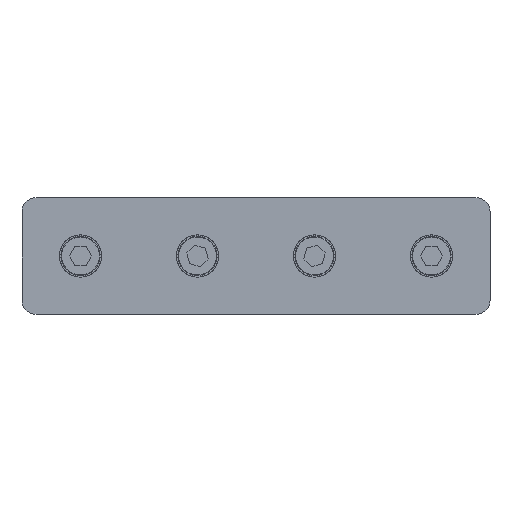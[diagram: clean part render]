
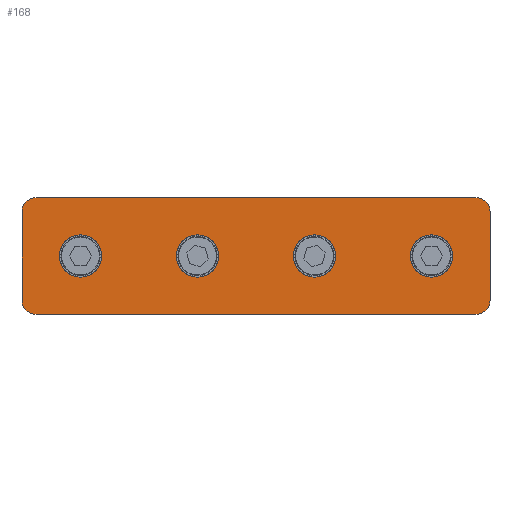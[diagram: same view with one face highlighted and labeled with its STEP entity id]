
A CAD part, top view. The second image highlights one B-rep face of the part: STEP entity #168.
In plain terms, the highlighted planar face has unit normal (0, 0, 1).
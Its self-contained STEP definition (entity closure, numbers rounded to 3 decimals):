
#20 = CARTESIAN_POINT ( 'NONE',  ( -183.807, 4.191, 89.049 ) ) ;
#52 = CARTESIAN_POINT ( 'NONE',  ( -158.807, 4.191, 89.049 ) ) ;
#56 = AXIS2_PLACEMENT_3D ( 'NONE', #52, #7964, #6671 ) ;
#57 = EDGE_CURVE ( 'NONE', #2915, #2399, #4601, .T. ) ;
#117 = VERTEX_POINT ( 'NONE', #2739 ) ;
#135 = CARTESIAN_POINT ( 'NONE',  ( -186.457, 4.191, 89.049 ) ) ;
#168 = ADVANCED_FACE ( 'NONE', ( #759, #5778, #1714, #3753, #5562 ), #1462, .T. ) ;
#228 = EDGE_CURVE ( 'NONE', #6391, #2781, #3121, .T. ) ;
#259 = VECTOR ( 'NONE', #2725, 1000. ) ;
#261 = CARTESIAN_POINT ( 'NONE',  ( -136.457, 4.191, 89.049 ) ) ;
#347 = DIRECTION ( 'NONE',  ( 1., 0., 0. ) ) ;
#353 = DIRECTION ( 'NONE',  ( 0., 0., 1. ) ) ;
#417 = CIRCLE ( 'NONE', #2021, 2.65 ) ;
#493 = CARTESIAN_POINT ( 'NONE',  ( -161.457, 4.191, 89.049 ) ) ;
#558 = EDGE_LOOP ( 'NONE', ( #4623, #1900 ) ) ;
#566 = CARTESIAN_POINT ( 'NONE',  ( -221.307, -5.309, 89.049 ) ) ;
#619 = CARTESIAN_POINT ( 'NONE',  ( -218.307, -8.309, 89.049 ) ) ;
#717 = DIRECTION ( 'NONE',  ( -1., 0., 0. ) ) ;
#759 = FACE_BOUND ( 'NONE', #8793, .T. ) ;
#871 = EDGE_CURVE ( 'NONE', #874, #5942, #5661, .T. ) ;
#874 = VERTEX_POINT ( 'NONE', #4853 ) ;
#901 = LINE ( 'NONE', #6182, #8173 ) ;
#1087 = AXIS2_PLACEMENT_3D ( 'NONE', #8538, #4440, #347 ) ;
#1204 = EDGE_CURVE ( 'NONE', #7070, #2706, #6849, .T. ) ;
#1261 = ORIENTED_EDGE ( 'NONE', *, *, #6812, .T. ) ;
#1331 = EDGE_CURVE ( 'NONE', #8437, #1561, #5769, .T. ) ;
#1370 = ORIENTED_EDGE ( 'NONE', *, *, #1331, .T. ) ;
#1381 = CARTESIAN_POINT ( 'NONE',  ( -158.807, 4.191, 89.049 ) ) ;
#1462 = PLANE ( 'NONE',  #4499 ) ;
#1496 = CARTESIAN_POINT ( 'NONE',  ( -218.307, -5.309, 89.049 ) ) ;
#1561 = VERTEX_POINT ( 'NONE', #8558 ) ;
#1608 = ORIENTED_EDGE ( 'NONE', *, *, #8847, .T. ) ;
#1635 = ORIENTED_EDGE ( 'NONE', *, *, #228, .T. ) ;
#1714 = FACE_BOUND ( 'NONE', #4508, .T. ) ;
#1900 = ORIENTED_EDGE ( 'NONE', *, *, #4706, .F. ) ;
#1999 = AXIS2_PLACEMENT_3D ( 'NONE', #3117, #7879, #3791 ) ;
#2021 = AXIS2_PLACEMENT_3D ( 'NONE', #20, #4813, #717 ) ;
#2063 = DIRECTION ( 'NONE',  ( -1., 0., 0. ) ) ;
#2094 = CARTESIAN_POINT ( 'NONE',  ( -208.807, 4.191, 89.049 ) ) ;
#2111 = CARTESIAN_POINT ( 'NONE',  ( -121.307, 13.691, 89.049 ) ) ;
#2304 = CARTESIAN_POINT ( 'NONE',  ( -221.307, 13.691, 89.049 ) ) ;
#2340 = LINE ( 'NONE', #2790, #5539 ) ;
#2399 = VERTEX_POINT ( 'NONE', #135 ) ;
#2536 = DIRECTION ( 'NONE',  ( 0., 0., 1. ) ) ;
#2645 = DIRECTION ( 'NONE',  ( 0., 1., 0. ) ) ;
#2706 = VERTEX_POINT ( 'NONE', #261 ) ;
#2725 = DIRECTION ( 'NONE',  ( 1., 0., 0. ) ) ;
#2739 = CARTESIAN_POINT ( 'NONE',  ( -211.457, 4.191, 89.049 ) ) ;
#2757 = CARTESIAN_POINT ( 'NONE',  ( -218.307, -8.309, 89.049 ) ) ;
#2764 = VERTEX_POINT ( 'NONE', #3986 ) ;
#2777 = EDGE_CURVE ( 'NONE', #1561, #5576, #2340, .T. ) ;
#2781 = VERTEX_POINT ( 'NONE', #2757 ) ;
#2788 = DIRECTION ( 'NONE',  ( -1., 0., 0. ) ) ;
#2790 = CARTESIAN_POINT ( 'NONE',  ( -121.307, -5.309, 89.049 ) ) ;
#2915 = VERTEX_POINT ( 'NONE', #6694 ) ;
#2954 = AXIS2_PLACEMENT_3D ( 'NONE', #2094, #6881, #2788 ) ;
#3005 = CARTESIAN_POINT ( 'NONE',  ( -133.807, 4.191, 89.049 ) ) ;
#3117 = CARTESIAN_POINT ( 'NONE',  ( -133.807, 4.191, 89.049 ) ) ;
#3121 = CIRCLE ( 'NONE', #5864, 3. ) ;
#3123 = AXIS2_PLACEMENT_3D ( 'NONE', #3005, #3657, #3684 ) ;
#3189 = CARTESIAN_POINT ( 'NONE',  ( -218.307, 13.691, 89.049 ) ) ;
#3284 = AXIS2_PLACEMENT_3D ( 'NONE', #1381, #6147, #2063 ) ;
#3378 = VECTOR ( 'NONE', #4311, 1000. ) ;
#3384 = CIRCLE ( 'NONE', #1999, 2.65 ) ;
#3401 = EDGE_LOOP ( 'NONE', ( #7145, #4725 ) ) ;
#3466 = VERTEX_POINT ( 'NONE', #6380 ) ;
#3561 = VERTEX_POINT ( 'NONE', #2304 ) ;
#3657 = DIRECTION ( 'NONE',  ( 0., 0., 1. ) ) ;
#3665 = ORIENTED_EDGE ( 'NONE', *, *, #57, .F. ) ;
#3684 = DIRECTION ( 'NONE',  ( -1., 0., 0. ) ) ;
#3753 = FACE_BOUND ( 'NONE', #3401, .T. ) ;
#3791 = DIRECTION ( 'NONE',  ( -1., 0., 0. ) ) ;
#3827 = ORIENTED_EDGE ( 'NONE', *, *, #6824, .F. ) ;
#3872 = DIRECTION ( 'NONE',  ( 1., 0., 0. ) ) ;
#3986 = CARTESIAN_POINT ( 'NONE',  ( -124.307, 16.691, 89.049 ) ) ;
#4115 = CARTESIAN_POINT ( 'NONE',  ( -206.157, 4.191, 89.049 ) ) ;
#4122 = DIRECTION ( 'NONE',  ( -1., 0., 0. ) ) ;
#4311 = DIRECTION ( 'NONE',  ( 0., -1., 0. ) ) ;
#4344 = CARTESIAN_POINT ( 'NONE',  ( -124.307, -5.309, 89.049 ) ) ;
#4440 = DIRECTION ( 'NONE',  ( 0., 0., 1. ) ) ;
#4447 = CARTESIAN_POINT ( 'NONE',  ( -208.807, 4.191, 89.049 ) ) ;
#4477 = ORIENTED_EDGE ( 'NONE', *, *, #7477, .T. ) ;
#4499 = AXIS2_PLACEMENT_3D ( 'NONE', #7532, #7371, #5600 ) ;
#4508 = EDGE_LOOP ( 'NONE', ( #3665, #6875 ) ) ;
#4601 = CIRCLE ( 'NONE', #7875, 2.65 ) ;
#4623 = ORIENTED_EDGE ( 'NONE', *, *, #871, .F. ) ;
#4706 = EDGE_CURVE ( 'NONE', #5942, #874, #6800, .T. ) ;
#4725 = ORIENTED_EDGE ( 'NONE', *, *, #5049, .F. ) ;
#4756 = VERTEX_POINT ( 'NONE', #4115 ) ;
#4813 = DIRECTION ( 'NONE',  ( 0., 0., 1. ) ) ;
#4853 = CARTESIAN_POINT ( 'NONE',  ( -156.157, 4.191, 89.049 ) ) ;
#4950 = AXIS2_PLACEMENT_3D ( 'NONE', #4344, #5579, #5833 ) ;
#5005 = CIRCLE ( 'NONE', #1087, 3. ) ;
#5037 = EDGE_CURVE ( 'NONE', #2399, #2915, #417, .T. ) ;
#5049 = EDGE_CURVE ( 'NONE', #117, #4756, #7462, .T. ) ;
#5145 = DIRECTION ( 'NONE',  ( -1., 0., 0. ) ) ;
#5203 = ORIENTED_EDGE ( 'NONE', *, *, #7291, .T. ) ;
#5414 = LINE ( 'NONE', #7040, #3378 ) ;
#5539 = VECTOR ( 'NONE', #2645, 1000. ) ;
#5562 = FACE_OUTER_BOUND ( 'NONE', #6534, .T. ) ;
#5576 = VERTEX_POINT ( 'NONE', #2111 ) ;
#5579 = DIRECTION ( 'NONE',  ( 0., 0., 1. ) ) ;
#5600 = DIRECTION ( 'NONE',  ( 1., 0., 0. ) ) ;
#5661 = CIRCLE ( 'NONE', #56, 2.65 ) ;
#5769 = CIRCLE ( 'NONE', #4950, 3. ) ;
#5778 = FACE_BOUND ( 'NONE', #558, .T. ) ;
#5787 = AXIS2_PLACEMENT_3D ( 'NONE', #3189, #7965, #3872 ) ;
#5809 = CIRCLE ( 'NONE', #7809, 2.65 ) ;
#5833 = DIRECTION ( 'NONE',  ( 1., 0., 0. ) ) ;
#5864 = AXIS2_PLACEMENT_3D ( 'NONE', #1496, #2536, #7847 ) ;
#5942 = VERTEX_POINT ( 'NONE', #493 ) ;
#6077 = CARTESIAN_POINT ( 'NONE',  ( -131.157, 4.191, 89.049 ) ) ;
#6147 = DIRECTION ( 'NONE',  ( 0., 0., 1. ) ) ;
#6182 = CARTESIAN_POINT ( 'NONE',  ( -124.307, 16.691, 89.049 ) ) ;
#6380 = CARTESIAN_POINT ( 'NONE',  ( -218.307, 16.691, 89.049 ) ) ;
#6391 = VERTEX_POINT ( 'NONE', #566 ) ;
#6534 = EDGE_LOOP ( 'NONE', ( #1370, #7102, #1261, #6788, #4477, #5203, #1635, #1608 ) ) ;
#6671 = DIRECTION ( 'NONE',  ( -1., 0., 0. ) ) ;
#6694 = CARTESIAN_POINT ( 'NONE',  ( -181.157, 4.191, 89.049 ) ) ;
#6706 = CARTESIAN_POINT ( 'NONE',  ( -183.807, 4.191, 89.049 ) ) ;
#6765 = ORIENTED_EDGE ( 'NONE', *, *, #1204, .F. ) ;
#6771 = DIRECTION ( 'NONE',  ( 0., 0., 1. ) ) ;
#6788 = ORIENTED_EDGE ( 'NONE', *, *, #8290, .T. ) ;
#6795 = DIRECTION ( 'NONE',  ( -1., 0., 0. ) ) ;
#6800 = CIRCLE ( 'NONE', #3284, 2.65 ) ;
#6812 = EDGE_CURVE ( 'NONE', #5576, #2764, #5005, .T. ) ;
#6824 = EDGE_CURVE ( 'NONE', #2706, #7070, #3384, .T. ) ;
#6849 = CIRCLE ( 'NONE', #3123, 2.65 ) ;
#6875 = ORIENTED_EDGE ( 'NONE', *, *, #5037, .F. ) ;
#6881 = DIRECTION ( 'NONE',  ( 0., 0., 1. ) ) ;
#7040 = CARTESIAN_POINT ( 'NONE',  ( -221.307, 13.691, 89.049 ) ) ;
#7070 = VERTEX_POINT ( 'NONE', #6077 ) ;
#7102 = ORIENTED_EDGE ( 'NONE', *, *, #2777, .T. ) ;
#7145 = ORIENTED_EDGE ( 'NONE', *, *, #8598, .F. ) ;
#7291 = EDGE_CURVE ( 'NONE', #3561, #6391, #5414, .T. ) ;
#7337 = CIRCLE ( 'NONE', #5787, 3. ) ;
#7371 = DIRECTION ( 'NONE',  ( 0., 0., 1. ) ) ;
#7462 = CIRCLE ( 'NONE', #2954, 2.65 ) ;
#7477 = EDGE_CURVE ( 'NONE', #3466, #3561, #7337, .T. ) ;
#7514 = LINE ( 'NONE', #619, #259 ) ;
#7532 = CARTESIAN_POINT ( 'NONE',  ( -124.307, -5.309, 89.049 ) ) ;
#7809 = AXIS2_PLACEMENT_3D ( 'NONE', #4447, #353, #5145 ) ;
#7847 = DIRECTION ( 'NONE',  ( 1., 0., 0. ) ) ;
#7875 = AXIS2_PLACEMENT_3D ( 'NONE', #6706, #6771, #6795 ) ;
#7879 = DIRECTION ( 'NONE',  ( 0., 0., 1. ) ) ;
#7964 = DIRECTION ( 'NONE',  ( 0., 0., 1. ) ) ;
#7965 = DIRECTION ( 'NONE',  ( 0., 0., 1. ) ) ;
#8173 = VECTOR ( 'NONE', #4122, 1000. ) ;
#8290 = EDGE_CURVE ( 'NONE', #2764, #3466, #901, .T. ) ;
#8402 = CARTESIAN_POINT ( 'NONE',  ( -124.307, -8.309, 89.049 ) ) ;
#8437 = VERTEX_POINT ( 'NONE', #8402 ) ;
#8538 = CARTESIAN_POINT ( 'NONE',  ( -124.307, 13.691, 89.049 ) ) ;
#8558 = CARTESIAN_POINT ( 'NONE',  ( -121.307, -5.309, 89.049 ) ) ;
#8598 = EDGE_CURVE ( 'NONE', #4756, #117, #5809, .T. ) ;
#8793 = EDGE_LOOP ( 'NONE', ( #6765, #3827 ) ) ;
#8847 = EDGE_CURVE ( 'NONE', #2781, #8437, #7514, .T. ) ;
